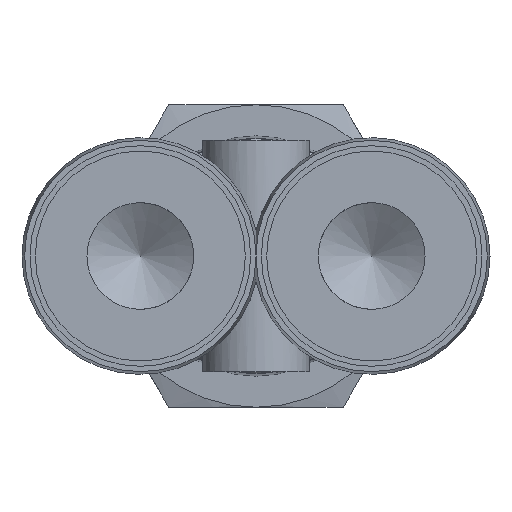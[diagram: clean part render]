
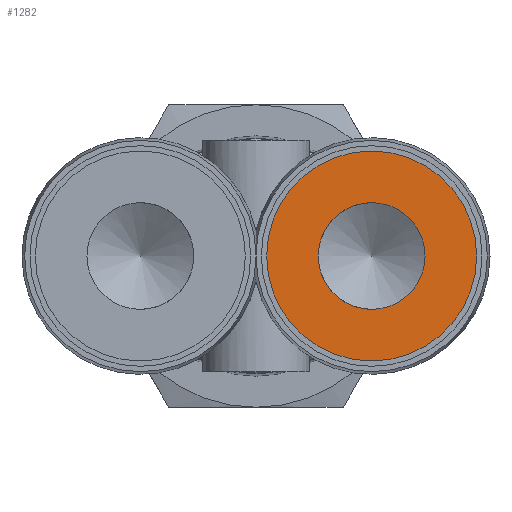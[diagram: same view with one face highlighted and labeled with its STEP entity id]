
A CAD part, front view. The second image highlights one B-rep face of the part: STEP entity #1282.
In plain terms, the highlighted planar face has unit normal (0, -1, 0).
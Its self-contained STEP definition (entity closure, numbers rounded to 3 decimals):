
#107=FACE_BOUND('',#265,.T.);
#126=PLANE('',#1453);
#182=FACE_OUTER_BOUND('',#264,.T.);
#264=EDGE_LOOP('',(#1076,#1077));
#265=EDGE_LOOP('',(#1078,#1079));
#433=CIRCLE('',#1410,3.);
#434=CIRCLE('',#1411,3.);
#457=CIRCLE('',#1451,5.9);
#458=CIRCLE('',#1452,5.9);
#555=VERTEX_POINT('',#2358);
#556=VERTEX_POINT('',#2359);
#581=VERTEX_POINT('',#2481);
#582=VERTEX_POINT('',#2482);
#717=EDGE_CURVE('',#555,#556,#433,.T.);
#718=EDGE_CURVE('',#556,#555,#434,.T.);
#756=EDGE_CURVE('',#581,#582,#457,.T.);
#757=EDGE_CURVE('',#582,#581,#458,.T.);
#1076=ORIENTED_EDGE('',*,*,#756,.T.);
#1077=ORIENTED_EDGE('',*,*,#757,.T.);
#1078=ORIENTED_EDGE('',*,*,#717,.T.);
#1079=ORIENTED_EDGE('',*,*,#718,.T.);
#1282=ADVANCED_FACE('',(#182,#107),#126,.T.);
#1410=AXIS2_PLACEMENT_3D('',#2360,#1686,#1687);
#1411=AXIS2_PLACEMENT_3D('',#2361,#1688,#1689);
#1451=AXIS2_PLACEMENT_3D('',#2483,#1779,#1780);
#1452=AXIS2_PLACEMENT_3D('',#2484,#1781,#1782);
#1453=AXIS2_PLACEMENT_3D('',#2486,#1784,#1785);
#1686=DIRECTION('center_axis',(0.,1.,0.));
#1687=DIRECTION('ref_axis',(1.,0.,0.));
#1688=DIRECTION('center_axis',(0.,1.,0.));
#1689=DIRECTION('ref_axis',(1.,0.,0.));
#1779=DIRECTION('center_axis',(0.,-1.,0.));
#1780=DIRECTION('ref_axis',(1.,0.,0.));
#1781=DIRECTION('center_axis',(0.,-1.,0.));
#1782=DIRECTION('ref_axis',(1.,0.,0.));
#1784=DIRECTION('center_axis',(0.,-1.,0.));
#1785=DIRECTION('ref_axis',(0.,0.,-1.));
#2358=CARTESIAN_POINT('',(9.5,-14.6,0.));
#2359=CARTESIAN_POINT('',(3.5,-14.6,0.));
#2360=CARTESIAN_POINT('Origin',(6.5,-14.6,0.));
#2361=CARTESIAN_POINT('Origin',(6.5,-14.6,0.));
#2481=CARTESIAN_POINT('',(12.4,-14.6,0.));
#2482=CARTESIAN_POINT('',(0.6,-14.6,0.));
#2483=CARTESIAN_POINT('Origin',(6.5,-14.6,0.));
#2484=CARTESIAN_POINT('Origin',(6.5,-14.6,0.));
#2486=CARTESIAN_POINT('Origin',(6.5,-14.6,0.));
